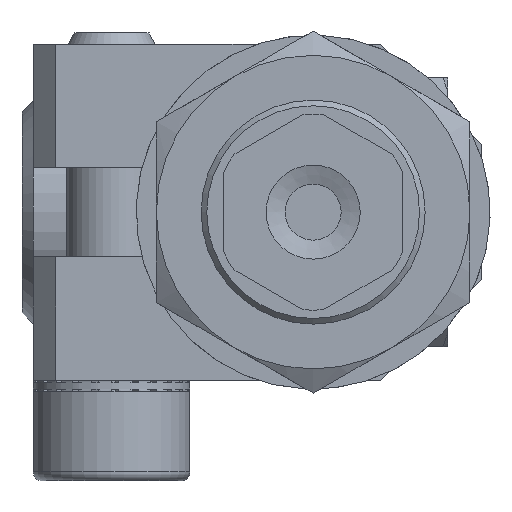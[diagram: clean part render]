
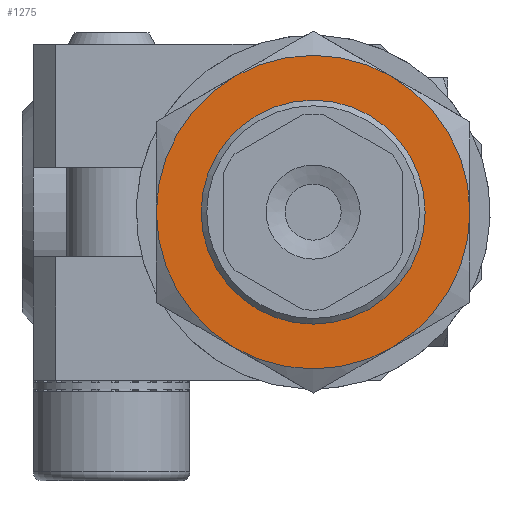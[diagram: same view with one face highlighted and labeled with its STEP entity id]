
A CAD part, front view. The second image highlights one B-rep face of the part: STEP entity #1275.
In plain terms, the highlighted planar face has unit normal (0, -1, 0) as drawn and (1, 0, 0) by its records, which use the part's own axes.
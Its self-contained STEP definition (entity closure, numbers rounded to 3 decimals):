
#1275=ADVANCED_FACE('',(#2164,#2165),#2166,.F.);
#2164=FACE_BOUND('',#3401,.T.);
#2165=FACE_OUTER_BOUND('',#3402,.T.);
#2166=PLANE('',#3403);
#3401=EDGE_LOOP('',(#5628));
#3402=EDGE_LOOP('',(#5629,#5630,#5631,#5632,#5633,#5634));
#3403=AXIS2_PLACEMENT_3D('',#5635,#5636,#5637);
#5628=ORIENTED_EDGE('',*,*,#9014,.T.);
#5629=ORIENTED_EDGE('',*,*,#9032,.F.);
#5630=ORIENTED_EDGE('',*,*,#9033,.F.);
#5631=ORIENTED_EDGE('',*,*,#9034,.F.);
#5632=ORIENTED_EDGE('',*,*,#9035,.F.);
#5633=ORIENTED_EDGE('',*,*,#9036,.F.);
#5634=ORIENTED_EDGE('',*,*,#8997,.F.);
#5635=CARTESIAN_POINT('',(0.,0.,14.0));
#5636=DIRECTION('',(-1.0,0.,0.0));
#5637=DIRECTION('',(0.,-1.0,0.0));
#8997=EDGE_CURVE('',#10352,#10354,#10355,.T.);
#9014=EDGE_CURVE('',#10384,#10384,#10385,.T.);
#9032=EDGE_CURVE('',#10363,#10352,#10411,.T.);
#9033=EDGE_CURVE('',#10396,#10363,#10412,.T.);
#9034=EDGE_CURVE('',#10376,#10396,#10413,.T.);
#9035=EDGE_CURVE('',#10414,#10376,#10415,.T.);
#9036=EDGE_CURVE('',#10354,#10414,#10416,.T.);
#10352=VERTEX_POINT('',#12362);
#10354=VERTEX_POINT('',#12369);
#10355=CIRCLE('',#12370,7.0);
#10363=VERTEX_POINT('',#12391);
#10376=VERTEX_POINT('',#12426);
#10384=VERTEX_POINT('',#12454);
#10385=CIRCLE('',#12455,5.0);
#10396=VERTEX_POINT('',#12471);
#10411=CIRCLE('',#12505,7.0);
#10412=CIRCLE('',#12506,7.0);
#10413=CIRCLE('',#12507,7.0);
#10414=VERTEX_POINT('',#12508);
#10415=CIRCLE('',#12509,7.0);
#10416=CIRCLE('',#12510,7.0);
#12362=CARTESIAN_POINT('',(0.,6.062,3.5));
#12369=CARTESIAN_POINT('',(0.,6.062,-3.5));
#12370=AXIS2_PLACEMENT_3D('',#15529,#15530,#15531);
#12391=CARTESIAN_POINT('',(0.,0.0,7.0));
#12426=CARTESIAN_POINT('',(0.,-6.062,-3.5));
#12454=CARTESIAN_POINT('',(0.,-5.0,0.));
#12455=AXIS2_PLACEMENT_3D('',#15536,#15537,#15538);
#12471=CARTESIAN_POINT('',(0.,-6.062,3.5));
#12505=AXIS2_PLACEMENT_3D('',#15566,#15567,#15568);
#12506=AXIS2_PLACEMENT_3D('',#15569,#15570,#15571);
#12507=AXIS2_PLACEMENT_3D('',#15572,#15573,#15574);
#12508=CARTESIAN_POINT('',(0.,0.0,-7.0));
#12509=AXIS2_PLACEMENT_3D('',#15575,#15576,#15577);
#12510=AXIS2_PLACEMENT_3D('',#15578,#15579,#15580);
#15529=CARTESIAN_POINT('',(0.,0.0,0.0));
#15530=DIRECTION('',(-1.0,0.0,0.0));
#15531=DIRECTION('',(0.0,0.0,1.0));
#15536=CARTESIAN_POINT('',(0.0,0.,0.));
#15537=DIRECTION('',(-1.0,0.,0.0));
#15538=DIRECTION('',(0.,-1.0,0.0));
#15566=CARTESIAN_POINT('',(0.,0.0,0.0));
#15567=DIRECTION('',(-1.0,0.0,0.0));
#15568=DIRECTION('',(0.0,0.0,1.0));
#15569=CARTESIAN_POINT('',(0.,0.0,0.0));
#15570=DIRECTION('',(-1.0,0.0,0.0));
#15571=DIRECTION('',(0.0,0.0,1.0));
#15572=CARTESIAN_POINT('',(0.,0.0,0.0));
#15573=DIRECTION('',(-1.0,0.0,0.0));
#15574=DIRECTION('',(0.0,0.0,1.0));
#15575=CARTESIAN_POINT('',(0.,0.0,0.0));
#15576=DIRECTION('',(-1.0,0.0,0.0));
#15577=DIRECTION('',(0.0,0.0,1.0));
#15578=CARTESIAN_POINT('',(0.,0.0,0.0));
#15579=DIRECTION('',(-1.0,0.0,0.0));
#15580=DIRECTION('',(0.0,0.0,1.0));
